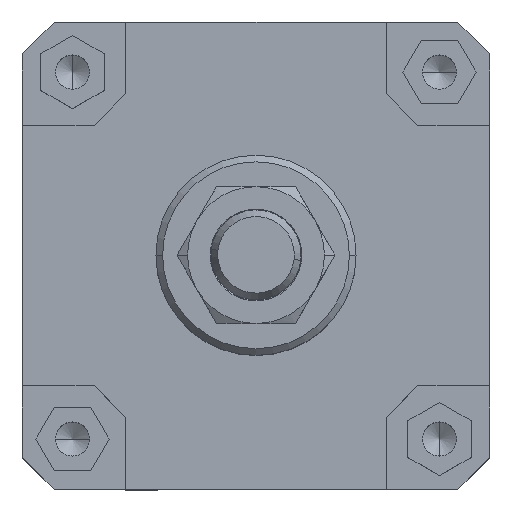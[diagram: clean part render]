
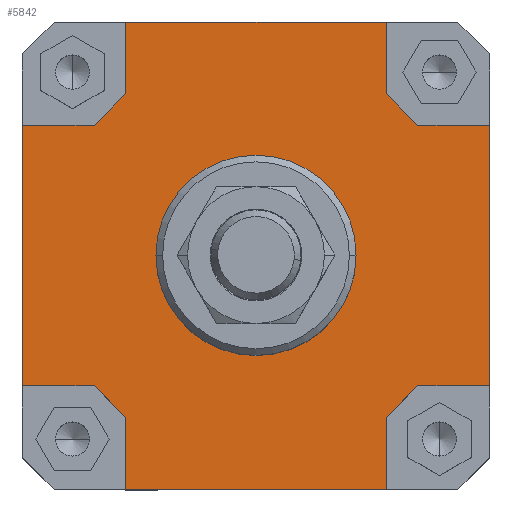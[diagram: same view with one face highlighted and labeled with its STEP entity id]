
A CAD part, top view. The second image highlights one B-rep face of the part: STEP entity #5842.
In plain terms, the highlighted planar face has unit normal (0, 0, 1).
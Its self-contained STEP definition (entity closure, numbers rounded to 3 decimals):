
#1816=CARTESIAN_POINT('',(-30.0,0.,80.0));
#1817=VERTEX_POINT('',#1816);
#1826=CARTESIAN_POINT('',(30.0,0.,80.0));
#1827=VERTEX_POINT('',#1826);
#1828=CARTESIAN_POINT('',(0.0,0.0,80.0));
#1829=DIRECTION('',(0.0,0.0,-1.0));
#1830=DIRECTION('',(-1.0,0.0,0.0));
#1831=AXIS2_PLACEMENT_3D('',#1828,#1829,#1830);
#1832=CIRCLE('',#1831,30.0);
#1833=EDGE_CURVE('',#1827,#1817,#1832,.T.);
#1917=CARTESIAN_POINT('',(0.0,0.0,80.0));
#1918=DIRECTION('',(0.0,0.0,-1.0));
#1919=DIRECTION('',(-1.0,0.0,0.0));
#1920=AXIS2_PLACEMENT_3D('',#1917,#1918,#1919);
#1921=CIRCLE('',#1920,30.0);
#1922=EDGE_CURVE('',#1817,#1827,#1921,.T.);
#2001=CARTESIAN_POINT('',(-39.,70.0,80.0));
#2002=VERTEX_POINT('',#2001);
#2009=CARTESIAN_POINT('',(39.,70.,80.0));
#2010=VERTEX_POINT('',#2009);
#2011=CARTESIAN_POINT('',(-39.,70.0,80.0));
#2012=DIRECTION('',(1.0,0.0,0.0));
#2013=VECTOR('',#2012,78.);
#2014=LINE('',#2011,#2013);
#2015=EDGE_CURVE('',#2002,#2010,#2014,.T.);
#2460=CARTESIAN_POINT('',(70.0,39.,80.0));
#2461=VERTEX_POINT('',#2460);
#2468=CARTESIAN_POINT('',(70.,-39.,80.0));
#2469=VERTEX_POINT('',#2468);
#2470=CARTESIAN_POINT('',(70.0,39.,80.0));
#2471=DIRECTION('',(0.0,-1.0,0.0));
#2472=VECTOR('',#2471,78.);
#2473=LINE('',#2470,#2472);
#2474=EDGE_CURVE('',#2461,#2469,#2473,.T.);
#2541=CARTESIAN_POINT('',(-39.,-48.5,80.0));
#2542=VERTEX_POINT('',#2541);
#2549=CARTESIAN_POINT('',(-48.5,-39.,80.0));
#2550=VERTEX_POINT('',#2549);
#2551=CARTESIAN_POINT('',(-39.,-48.5,80.0));
#2552=DIRECTION('',(-0.707,0.707,0.0));
#2553=VECTOR('',#2552,13.435);
#2554=LINE('',#2551,#2553);
#2555=EDGE_CURVE('',#2542,#2550,#2554,.T.);
#2669=CARTESIAN_POINT('',(-70.,-39.,80.0));
#2670=VERTEX_POINT('',#2669);
#2671=CARTESIAN_POINT('',(-70.,-39.,80.0));
#2672=DIRECTION('',(1.0,0.0,0.0));
#2673=VECTOR('',#2672,21.5);
#2674=LINE('',#2671,#2673);
#2675=EDGE_CURVE('',#2670,#2550,#2674,.T.);
#2702=CARTESIAN_POINT('',(48.5,-39.,80.0));
#2703=VERTEX_POINT('',#2702);
#2710=CARTESIAN_POINT('',(39.,-48.5,80.0));
#2711=VERTEX_POINT('',#2710);
#2712=CARTESIAN_POINT('',(48.5,-39.,80.0));
#2713=DIRECTION('',(-0.707,-0.707,0.0));
#2714=VECTOR('',#2713,13.435);
#2715=LINE('',#2712,#2714);
#2716=EDGE_CURVE('',#2703,#2711,#2715,.T.);
#2814=CARTESIAN_POINT('',(39.,-70.0,80.0));
#2815=VERTEX_POINT('',#2814);
#2816=CARTESIAN_POINT('',(39.,-70.0,80.0));
#2817=DIRECTION('',(0.0,1.0,0.0));
#2818=VECTOR('',#2817,21.5);
#2819=LINE('',#2816,#2818);
#2820=EDGE_CURVE('',#2815,#2711,#2819,.T.);
#2847=CARTESIAN_POINT('',(39.,48.5,80.0));
#2848=VERTEX_POINT('',#2847);
#2855=CARTESIAN_POINT('',(48.5,39.,80.0));
#2856=VERTEX_POINT('',#2855);
#2857=CARTESIAN_POINT('',(39.,48.5,80.0));
#2858=DIRECTION('',(0.707,-0.707,0.0));
#2859=VECTOR('',#2858,13.435);
#2860=LINE('',#2857,#2859);
#2861=EDGE_CURVE('',#2848,#2856,#2860,.T.);
#2952=CARTESIAN_POINT('',(70.0,39.,80.0));
#2953=DIRECTION('',(-1.0,0.0,0.0));
#2954=VECTOR('',#2953,21.5);
#2955=LINE('',#2952,#2954);
#2956=EDGE_CURVE('',#2461,#2856,#2955,.T.);
#2969=CARTESIAN_POINT('',(-48.5,39.,80.0));
#2970=VERTEX_POINT('',#2969);
#2977=CARTESIAN_POINT('',(-39.,48.5,80.0));
#2978=VERTEX_POINT('',#2977);
#2979=CARTESIAN_POINT('',(-48.5,39.,80.0));
#2980=DIRECTION('',(0.707,0.707,0.0));
#2981=VECTOR('',#2980,13.435);
#2982=LINE('',#2979,#2981);
#2983=EDGE_CURVE('',#2970,#2978,#2982,.T.);
#3000=CARTESIAN_POINT('',(-39.,70.0,80.0));
#3001=DIRECTION('',(0.0,-1.0,0.0));
#3002=VECTOR('',#3001,21.5);
#3003=LINE('',#3000,#3002);
#3004=EDGE_CURVE('',#2002,#2978,#3003,.T.);
#4034=CARTESIAN_POINT('',(-70.,39.,80.0));
#4035=VERTEX_POINT('',#4034);
#4036=CARTESIAN_POINT('',(-70.,-39.,80.0));
#4037=DIRECTION('',(0.0,1.0,0.0));
#4038=VECTOR('',#4037,78.);
#4039=LINE('',#4036,#4038);
#4040=EDGE_CURVE('',#2670,#4035,#4039,.T.);
#5436=CARTESIAN_POINT('',(-48.5,39.,80.0));
#5437=DIRECTION('',(-1.0,0.0,0.0));
#5438=VECTOR('',#5437,21.5);
#5439=LINE('',#5436,#5438);
#5440=EDGE_CURVE('',#2970,#4035,#5439,.T.);
#5597=CARTESIAN_POINT('',(39.,48.5,80.0));
#5598=DIRECTION('',(0.0,1.0,0.0));
#5599=VECTOR('',#5598,21.5);
#5600=LINE('',#5597,#5599);
#5601=EDGE_CURVE('',#2848,#2010,#5600,.T.);
#5758=CARTESIAN_POINT('',(48.5,-39.,80.0));
#5759=DIRECTION('',(1.0,0.0,0.0));
#5760=VECTOR('',#5759,21.5);
#5761=LINE('',#5758,#5760);
#5762=EDGE_CURVE('',#2703,#2469,#5761,.T.);
#5803=CARTESIAN_POINT('',(0.,0.,80.0));
#5804=DIRECTION('',(0.0,0.0,1.0));
#5805=DIRECTION('',(1.0,0.0,0.0));
#5806=AXIS2_PLACEMENT_3D('',#5803,#5804,#5805);
#5807=PLANE('',#5806);
#5808=ORIENTED_EDGE('',*,*,#3004,.T.);
#5809=ORIENTED_EDGE('',*,*,#2983,.F.);
#5810=ORIENTED_EDGE('',*,*,#5440,.T.);
#5811=ORIENTED_EDGE('',*,*,#4040,.F.);
#5812=ORIENTED_EDGE('',*,*,#2675,.T.);
#5813=ORIENTED_EDGE('',*,*,#2555,.F.);
#5814=CARTESIAN_POINT('',(-39.,-70.,80.0));
#5815=VERTEX_POINT('',#5814);
#5816=CARTESIAN_POINT('',(-39.,-48.5,80.0));
#5817=DIRECTION('',(0.0,-1.0,0.0));
#5818=VECTOR('',#5817,21.5);
#5819=LINE('',#5816,#5818);
#5820=EDGE_CURVE('',#2542,#5815,#5819,.T.);
#5821=ORIENTED_EDGE('',*,*,#5820,.T.);
#5822=CARTESIAN_POINT('',(39.,-70.0,80.0));
#5823=DIRECTION('',(-1.0,0.0,0.0));
#5824=VECTOR('',#5823,78.);
#5825=LINE('',#5822,#5824);
#5826=EDGE_CURVE('',#2815,#5815,#5825,.T.);
#5827=ORIENTED_EDGE('',*,*,#5826,.F.);
#5828=ORIENTED_EDGE('',*,*,#2820,.T.);
#5829=ORIENTED_EDGE('',*,*,#2716,.F.);
#5830=ORIENTED_EDGE('',*,*,#5762,.T.);
#5831=ORIENTED_EDGE('',*,*,#2474,.F.);
#5832=ORIENTED_EDGE('',*,*,#2956,.T.);
#5833=ORIENTED_EDGE('',*,*,#2861,.F.);
#5834=ORIENTED_EDGE('',*,*,#5601,.T.);
#5835=ORIENTED_EDGE('',*,*,#2015,.F.);
#5836=EDGE_LOOP('',(#5808,#5809,#5810,#5811,#5812,#5813,#5821,#5827,#5828,#5829,#5830,#5831,#5832,#5833,#5834,#5835));
#5837=FACE_OUTER_BOUND('',#5836,.T.);
#5838=ORIENTED_EDGE('',*,*,#1833,.T.);
#5839=ORIENTED_EDGE('',*,*,#1922,.T.);
#5840=EDGE_LOOP('',(#5838,#5839));
#5841=FACE_BOUND('',#5840,.T.);
#5842=ADVANCED_FACE('',(#5837,#5841),#5807,.T.);
